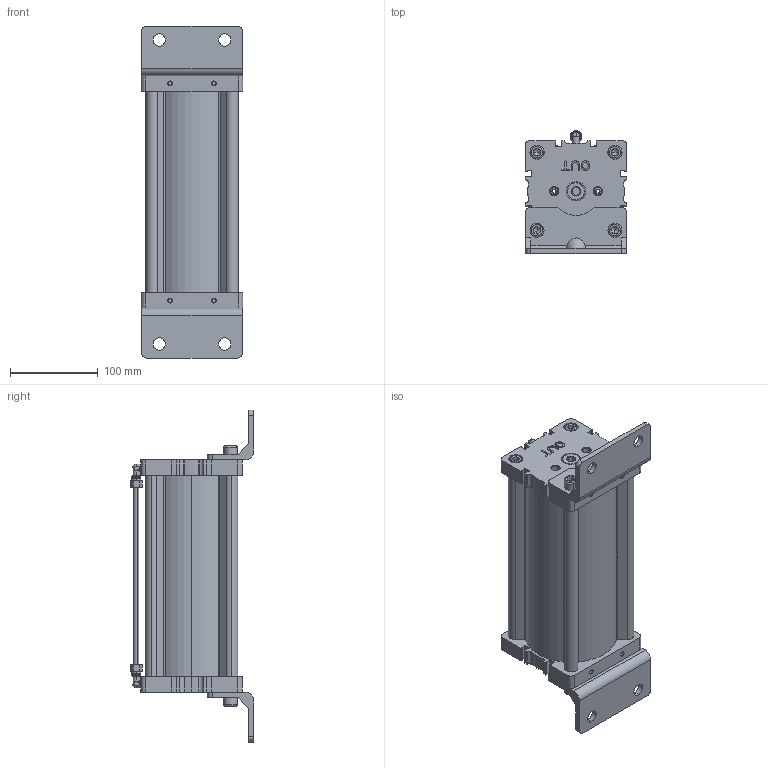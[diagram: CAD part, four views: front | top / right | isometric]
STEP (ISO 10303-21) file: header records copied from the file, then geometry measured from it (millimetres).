
FILE_DESCRIPTION (( 'STEP AP214' ), '1' );
FILE_NAME ('21.130.4.STEP', '2021-10-29T15:44:18', ( '' ), ( '' ), 'SwSTEP 2.0', 'SolidWorks 2016', '' );
FILE_SCHEMA (( 'AUTOMOTIVE_DESIGN' ));
Length unit declared in the file: millimetre
Products named in the file (1): 21.130.4
Bounding box: 115.5 x 140.93 x 379 mm (x, y, z)
Volume: 981995.3 mm3; surface area: 419507.6 mm2
Topology: 20 solids, 20 shells, 2155 faces, 5599 edges, 3507 vertices
Faces by surface type: cone 846, cylinder 805, plane 450, torus 46, sphere 6, bspline 2
Entity records: 91193 total; most frequent: DIRECTION 12649, CARTESIAN_POINT 12350, ORIENTED_EDGE 11130, EDGE_CURVE 5565, AXIS2_PLACEMENT_3D 5068, VERTEX_POINT 3507, CIRCLE 2914, LINE 2513
